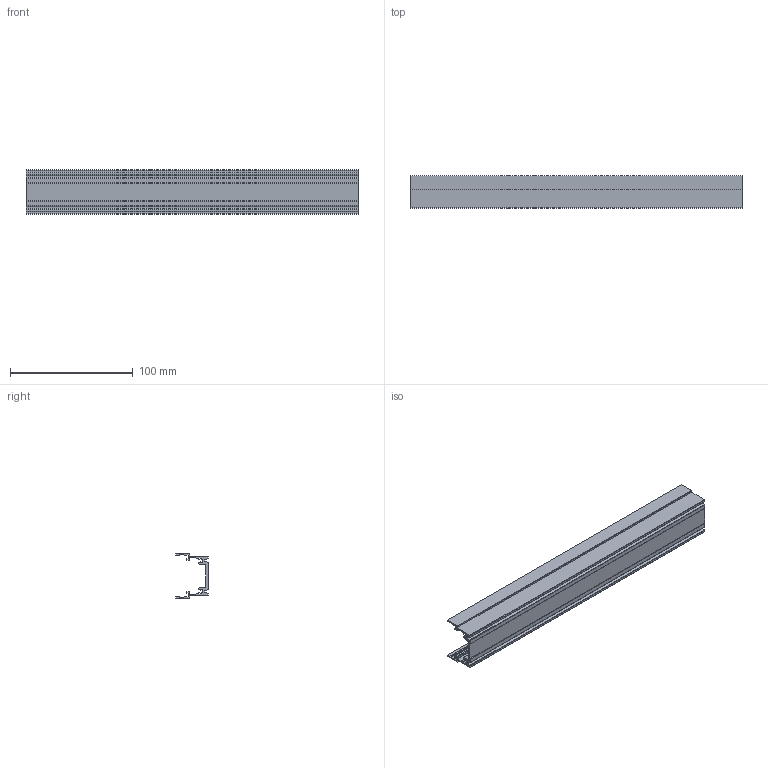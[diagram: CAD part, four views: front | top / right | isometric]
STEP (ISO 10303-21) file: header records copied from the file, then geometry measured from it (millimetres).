
FILE_DESCRIPTION( ( 'STEP AP203' ), '1' );
FILE_NAME( 'C:/Temp/Ganter_Step_05_03_2020/data/3_8/gn_646_3/Carrier profile GN 646.3-270-A (15).stp', '2020-03-12T15:24:21', ( 'License CC BY-ND 4.0' ), ( 'CADENAS' ), ' ', 'PARTsolutions', ' ' );
FILE_SCHEMA( ( 'CONFIG_CONTROL_DESIGN' ) );
Length unit declared in the file: millimetre
Products named in the file (1): _Carrier profile GN 646.3-270-A (15)
Bounding box: 270 x 26.5 x 36 mm (x, y, z)
Volume: 45343.2 mm3; surface area: 57008.3 mm2
Topology: 1 solids, 1 shells, 112 faces, 330 edges, 220 vertices
Faces by surface type: plane 70, cylinder 42
Entity records: 3782 total; most frequent: CARTESIAN_POINT 663, ORIENTED_EDGE 660, DIRECTION 640, EDGE_CURVE 330, LINE 246, VECTOR 246, VERTEX_POINT 220, AXIS2_PLACEMENT_3D 197
